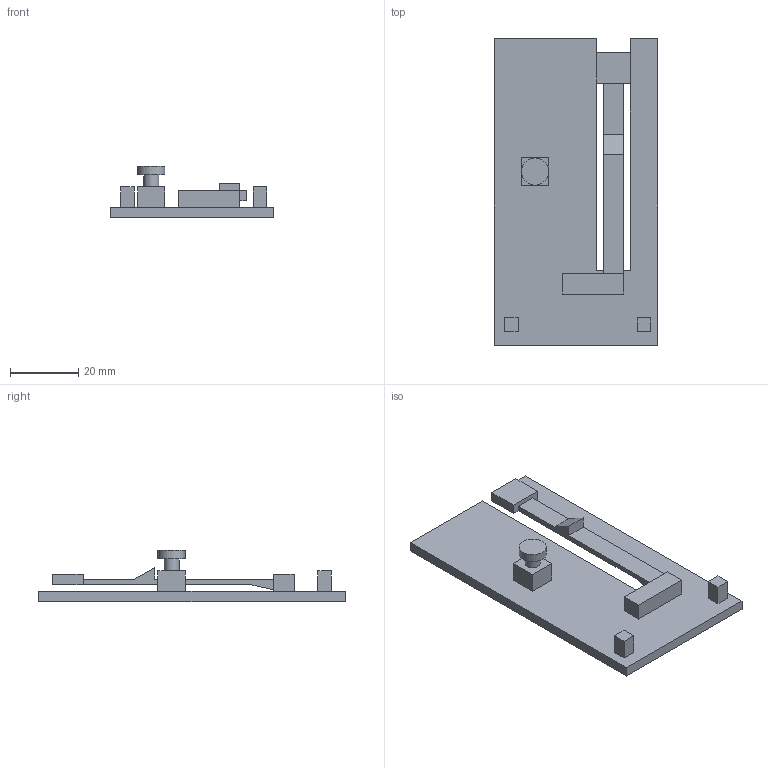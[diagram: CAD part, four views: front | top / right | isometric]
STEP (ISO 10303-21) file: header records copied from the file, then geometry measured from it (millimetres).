
FILE_DESCRIPTION(('Open CASCADE Model'),'2;1');
FILE_NAME('Open CASCADE Shape Model','2026-11-12T17:04:52',('Author'),( 'Open CASCADE'),'Open CASCADE STEP processor 7.8','Open CASCADE 7.8' ,'Unknown');
FILE_SCHEMA(('AUTOMOTIVE_DESIGN { 1 0 10303 214 1 1 1 1 }'));
Length unit declared in the file: millimetre
Products named in the file (1): Open CASCADE STEP translator 7.8 7
Bounding box: 48 x 90 x 15 mm (x, y, z)
Volume: 13114.5 mm3; surface area: 10494.6 mm2
Topology: 1 solids, 1 shells, 46 faces, 114 edges, 76 vertices
Faces by surface type: plane 44, cylinder 2
Full cylindrical faces by diameter (mm): 4.4 x1, 8 x1
Entity records: 2837 total; most frequent: CARTESIAN_POINT 471, DIRECTION 439, LINE 334, VECTOR 334, ORIENTED_EDGE 228, PCURVE 228, DEFINITIONAL_REPRESENTATION 228, EDGE_CURVE 114
